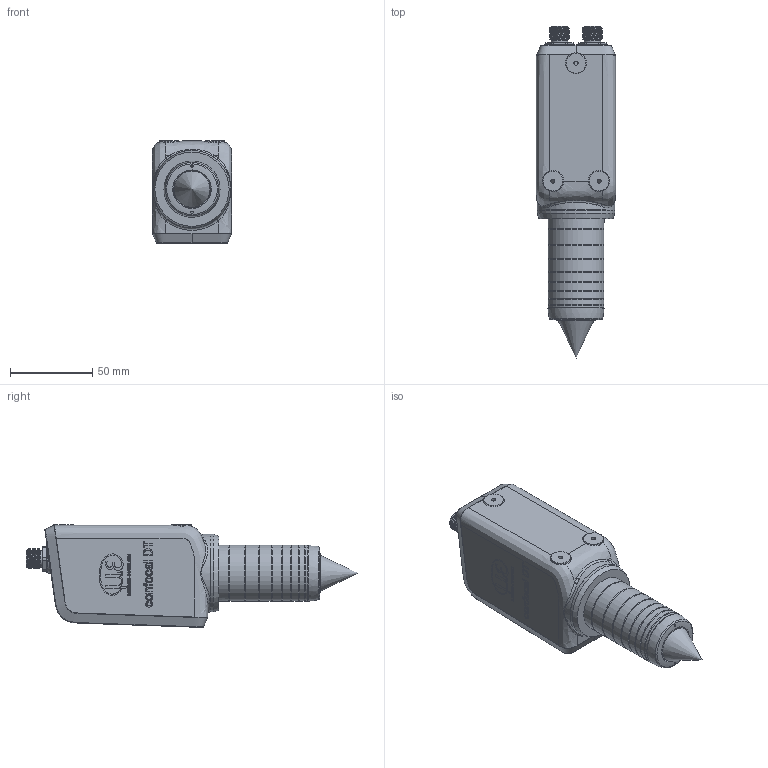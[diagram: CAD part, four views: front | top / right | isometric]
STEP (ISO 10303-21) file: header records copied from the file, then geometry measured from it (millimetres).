
FILE_DESCRIPTION (( 'STEP AP203' ), '1' );
FILE_NAME ('IFD2415-3.STEP', '2023-04-05T12:59:05', ( '' ), ( '' ), 'SwSTEP 2.0', 'SolidWorks 2020', '' );
FILE_SCHEMA (( 'CONFIG_CONTROL_DESIGN' ));
Products named in the file (1): IFD2415-3
Bounding box: 48 x 201.25 x 62.4 mm (x, y, z)
Volume: 333232.3 mm3; surface area: 43091.5 mm2
Topology: 2 solids, 24 shells, 3344 faces, 8629 edges, 5421 vertices
Faces by surface type: bspline 1271, plane 1208, cylinder 598, torus 145, sphere 103, cone 19
Full cylindrical faces by diameter (mm): 0.5 x29, 1.5 x2, 1.6 x1, 2 x14, 2.2 x10, 2.3 x10, 2.5 x3, 3.8 x10, 4 x10, 8.5 x4, 9.5 x1, 10 x7, 22.5 x1, 33.651 x1, 34 x10, 43 x1, 47 x1
Entity records: 150602 total; most frequent: CARTESIAN_POINT 80931, ORIENTED_EDGE 16368, DIRECTION 10969, EDGE_CURVE 8184, VERTEX_POINT 5230, VECTOR 3827, LINE 3827, EDGE_LOOP 3724
